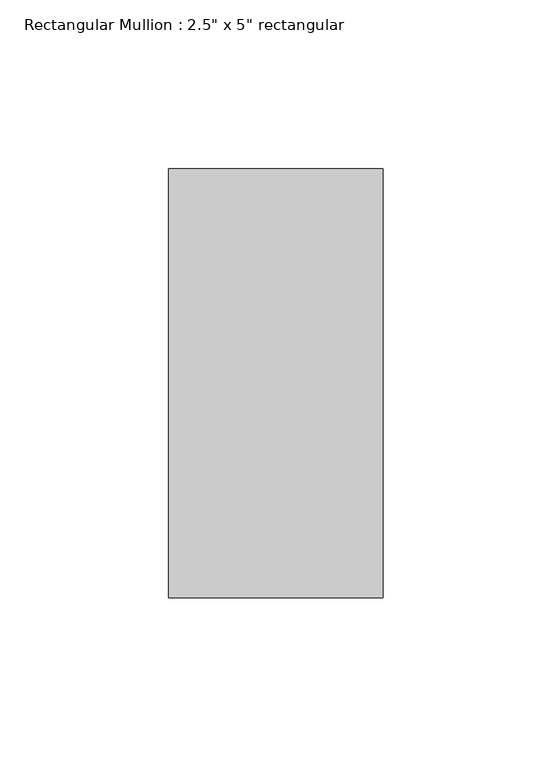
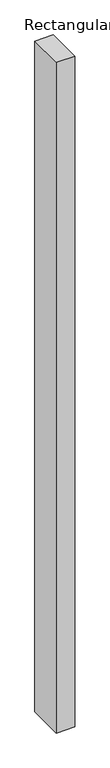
"""IFC4 building model written with IfcOpenShell, lengths in millimetres: member geometry."""

from ifc_helpers import new_model, si_unit, frame, origin, place, context, project, spatial, polyline, outline, extrude, source, transform, mapped, element, save


def member_f0fea5a5(model_context):
    return source(origin(), model_context, "Body", "SweptSolid", [
        extrude(outline(polyline([(31.75, 63.5), (31.75, -63.5), (-31.75, -63.5), (-31.75, 63.5), (31.75, 63.5)])), frame((0.0, 0.0, -2438.4), z_axis=(0.0, 0.0, 1.0), x_axis=(1.0, 0.0, 0.0)), (0.0, 0.0, 1.0), 2438.4),
    ])


if __name__ == "__main__":
    model = new_model("IFC4")
    model_context = context("Model", 3, world=origin())
    ifc_project = project(units=[si_unit("LENGTHUNIT", "METRE", prefix="MILLI")], contexts=[model_context])
    site = spatial("IfcSite", under=ifc_project)
    building = spatial("IfcBuilding", under=site)
    placement = place(None, origin())
    member_shape = member_f0fea5a5(model_context)
    element("IfcMember", 1, ObjectType="Rectangular Mullion : 2.5\" x 5\" rectangular", at=placement, inside=building, context=model_context, shape_type="MappedRepresentation", body=[
        mapped(member_shape, transform((0.0, 0.0, 0.0), x_axis=(1.0, 0.0, 0.0), y_axis=(0.0, 1.0, 0.0), z_axis=(0.0, 0.0, 1.0))),
    ])
    save(model, "model.ifc")
